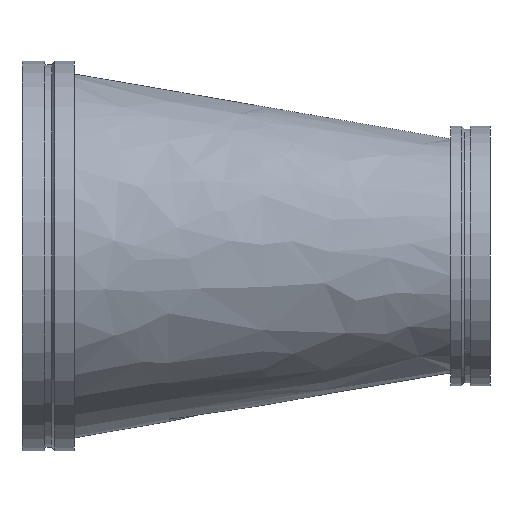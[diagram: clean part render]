
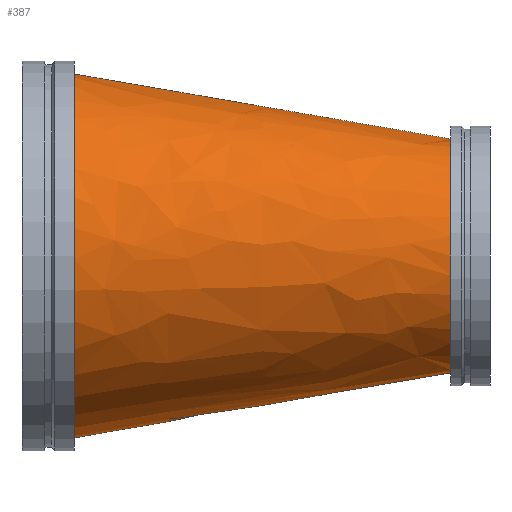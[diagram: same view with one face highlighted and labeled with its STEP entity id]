
A CAD part, front view. The second image highlights one B-rep face of the part: STEP entity #387.
In plain terms, the highlighted free-form (B-spline) face has degree [1, 2] with [2, 9] control points.
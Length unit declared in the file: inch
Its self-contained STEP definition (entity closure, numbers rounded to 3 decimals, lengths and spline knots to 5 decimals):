
#46=B_SPLINE_CURVE_WITH_KNOTS('',1,(#747,#748),.UNSPECIFIED.,.F.,.F.,(2,
2),(-2.1343,-0.00471),.UNSPECIFIED.);
#48=(
BOUNDED_SURFACE()
B_SPLINE_SURFACE(1,2,((#729,#730,#731,#732,#733,#734,#735,#736,#737),(#738,
#739,#740,#741,#742,#743,#744,#745,#746)),.UNSPECIFIED.,.F.,.T.,.F.)
B_SPLINE_SURFACE_WITH_KNOTS((2,2),(3,2,2,2,3),(-0.16757,2.239),
(-3.14159,-1.5708,0.,1.5708,3.14159),
 .UNSPECIFIED.)
GEOMETRIC_REPRESENTATION_ITEM()
RATIONAL_B_SPLINE_SURFACE(((1.,0.707,1.,0.707,1.,
0.707,1.,0.707,1.),(1.,0.707,1.,0.707,
1.,0.707,1.,0.707,1.)))
REPRESENTATION_ITEM('')
SURFACE()
);
#98=FACE_OUTER_BOUND('',#120,.T.);
#120=EDGE_LOOP('',(#321,#322,#323,#324,#325,#326));
#129=CIRCLE('',#415,9.);
#130=CIRCLE('',#416,9.);
#153=CIRCLE('',#450,14.);
#154=CIRCLE('',#451,14.);
#166=VERTEX_POINT('',#628);
#167=VERTEX_POINT('',#629);
#190=VERTEX_POINT('',#695);
#191=VERTEX_POINT('',#696);
#203=EDGE_CURVE('',#166,#167,#129,.T.);
#204=EDGE_CURVE('',#167,#166,#130,.T.);
#235=EDGE_CURVE('',#190,#191,#153,.T.);
#236=EDGE_CURVE('',#191,#190,#154,.T.);
#243=EDGE_CURVE('',#167,#191,#46,.T.);
#321=ORIENTED_EDGE('',*,*,#203,.T.);
#322=ORIENTED_EDGE('',*,*,#243,.T.);
#323=ORIENTED_EDGE('',*,*,#236,.T.);
#324=ORIENTED_EDGE('',*,*,#235,.T.);
#325=ORIENTED_EDGE('',*,*,#243,.F.);
#326=ORIENTED_EDGE('',*,*,#204,.T.);
#387=ADVANCED_FACE('',(#98),#48,.F.);
#415=AXIS2_PLACEMENT_3D('',#630,#486,#487);
#416=AXIS2_PLACEMENT_3D('',#631,#488,#489);
#450=AXIS2_PLACEMENT_3D('',#697,#564,#565);
#451=AXIS2_PLACEMENT_3D('',#698,#566,#567);
#486=DIRECTION('center_axis',(-1.,0.,0.));
#487=DIRECTION('ref_axis',(0.,-1.,0.));
#488=DIRECTION('center_axis',(-1.,0.,0.));
#489=DIRECTION('ref_axis',(0.,-1.,0.));
#564=DIRECTION('center_axis',(1.,0.,0.));
#565=DIRECTION('ref_axis',(0.,1.,0.));
#566=DIRECTION('center_axis',(1.,0.,0.));
#567=DIRECTION('ref_axis',(0.,1.,0.));
#628=CARTESIAN_POINT('',(33.,-14.,0.));
#629=CARTESIAN_POINT('',(33.,-5.25272,8.99645));
#630=CARTESIAN_POINT('Origin',(33.,-5.,0.));
#631=CARTESIAN_POINT('Origin',(33.,-5.,0.));
#695=CARTESIAN_POINT('',(4.,14.,0.));
#696=CARTESIAN_POINT('',(4.,-0.39313,13.99448));
#697=CARTESIAN_POINT('Origin',(4.,0.,0.));
#698=CARTESIAN_POINT('Origin',(4.,0.,0.));
#729=CARTESIAN_POINT('Ctrl Pts',(1.65399,0.,
14.3988));
#730=CARTESIAN_POINT('Ctrl Pts',(-0.69203,-14.,14.3988));
#731=CARTESIAN_POINT('Ctrl Pts',(-0.69203,-14.,0.));
#732=CARTESIAN_POINT('Ctrl Pts',(-0.69203,-14.,-14.3988));
#733=CARTESIAN_POINT('Ctrl Pts',(1.65399,0.,
-14.3988));
#734=CARTESIAN_POINT('Ctrl Pts',(4.,14.,-14.3988));
#735=CARTESIAN_POINT('Ctrl Pts',(4.,14.,0.));
#736=CARTESIAN_POINT('Ctrl Pts',(4.,14.,14.3988));
#737=CARTESIAN_POINT('Ctrl Pts',(1.65399,0.,
14.3988));
#738=CARTESIAN_POINT('Ctrl Pts',(34.42577,-5.49164,8.75073));
#739=CARTESIAN_POINT('Ctrl Pts',(33.,-14.,8.75073));
#740=CARTESIAN_POINT('Ctrl Pts',(33.,-14.,0.));
#741=CARTESIAN_POINT('Ctrl Pts',(33.,-14.,-8.75073));
#742=CARTESIAN_POINT('Ctrl Pts',(34.42577,-5.49164,-8.75073));
#743=CARTESIAN_POINT('Ctrl Pts',(35.85153,3.01671,-8.75073));
#744=CARTESIAN_POINT('Ctrl Pts',(35.85153,3.01671,0.));
#745=CARTESIAN_POINT('Ctrl Pts',(35.85153,3.01671,8.75073));
#746=CARTESIAN_POINT('Ctrl Pts',(34.42577,-5.49164,8.75073));
#747=CARTESIAN_POINT('Ctrl Pts',(33.,-5.25272,8.99645));
#748=CARTESIAN_POINT('Ctrl Pts',(4.,-0.39313,13.99448));
